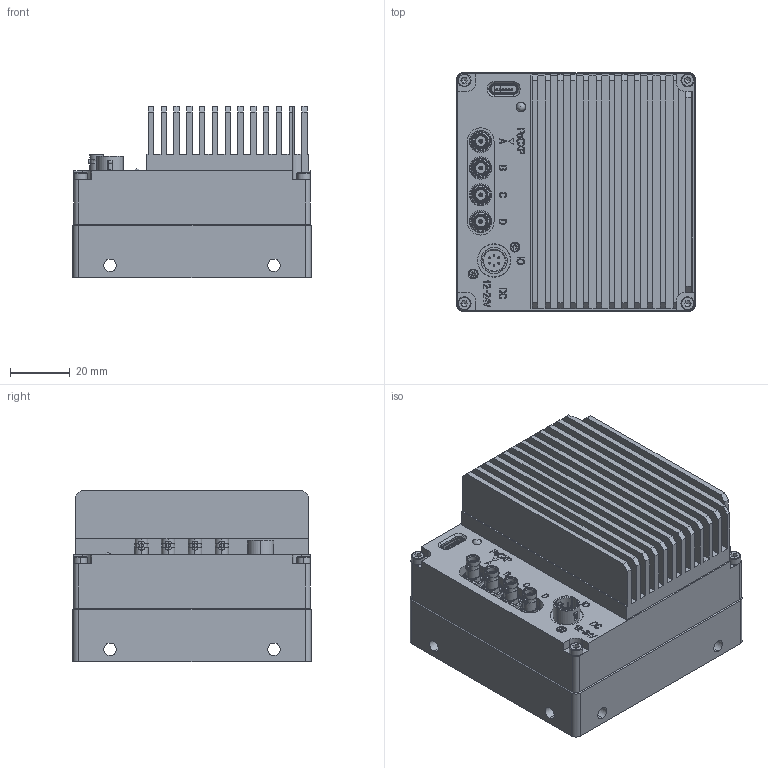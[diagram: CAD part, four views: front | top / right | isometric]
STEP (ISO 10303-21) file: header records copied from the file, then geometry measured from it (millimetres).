
FILE_DESCRIPTION (( 'STEP AP203' ), '1' );
FILE_NAME ('TS25MCXP12.STEP', '2023-09-08T02:46:22', ( '微软用户' ), ( '微软中国' ), 'SwSTEP 2.0', 'SolidWorks 2017', '' );
FILE_SCHEMA (( 'CONFIG_CONTROL_DESIGN' ));
Length unit declared in the file: millimetre
Products named in the file (1): TS25MCXP12
Bounding box: 80 x 80 x 57.59 mm (x, y, z)
Surface area: 63054.9 mm2 (no closed solid volume)
Topology: 0 solids, 88 shells, 653 faces, 2916 edges, 2282 vertices
Faces by surface type: plane 340, cylinder 198, cone 59, bspline 37, sphere 11, torus 8
Entity records: 37316 total; most frequent: CARTESIAN_POINT 15444, ORIENTED_EDGE 4156, DIRECTION 3933, EDGE_CURVE 2893, VERTEX_POINT 2274, LINE 1685, VECTOR 1685, AXIS2_PLACEMENT_3D 1124
